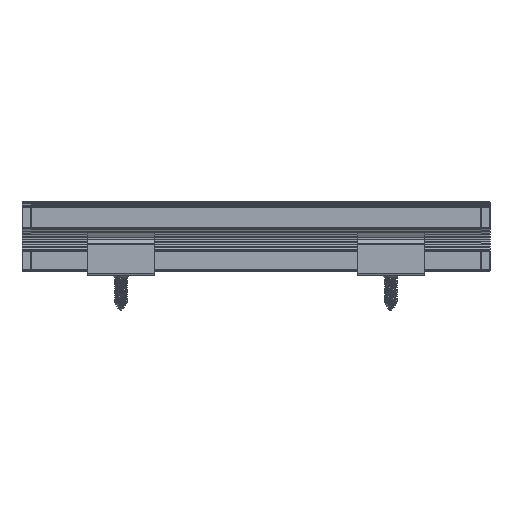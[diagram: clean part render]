
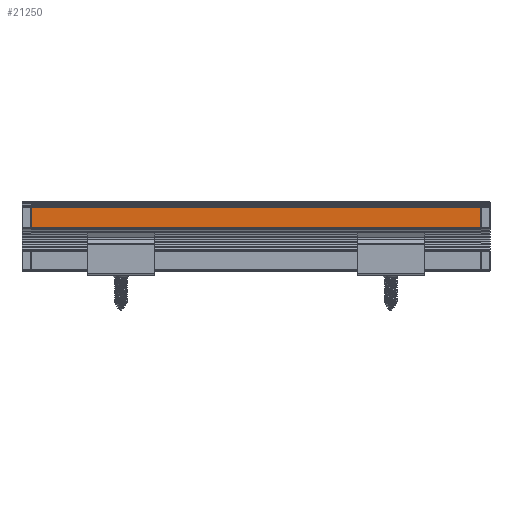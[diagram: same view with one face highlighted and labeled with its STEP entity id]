
A CAD part, left-side view. The second image highlights one B-rep face of the part: STEP entity #21250.
In plain terms, the highlighted planar face has unit normal (-1, 0, 0).
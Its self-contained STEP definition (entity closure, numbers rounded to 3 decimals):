
#1273=FACE_OUTER_BOUND('',#2492,.T.);
#2492=EDGE_LOOP('',(#14876,#14877,#14878,#14879));
#3718=LINE('',#30389,#6317);
#4122=LINE('',#31196,#6721);
#4123=LINE('',#31199,#6722);
#4124=LINE('',#31200,#6723);
#6317=VECTOR('',#24265,10.);
#6721=VECTOR('',#25051,10.);
#6722=VECTOR('',#25054,10.);
#6723=VECTOR('',#25055,10.);
#8916=VERTEX_POINT('',#30386);
#8917=VERTEX_POINT('',#30388);
#9129=VERTEX_POINT('',#31194);
#9130=VERTEX_POINT('',#31198);
#10940=EDGE_CURVE('',#8916,#8917,#3718,.T.);
#11344=EDGE_CURVE('',#8916,#9129,#4122,.T.);
#11345=EDGE_CURVE('',#9130,#9129,#4123,.T.);
#11346=EDGE_CURVE('',#8917,#9130,#4124,.T.);
#14876=ORIENTED_EDGE('',*,*,#11344,.T.);
#14877=ORIENTED_EDGE('',*,*,#11345,.F.);
#14878=ORIENTED_EDGE('',*,*,#11346,.F.);
#14879=ORIENTED_EDGE('',*,*,#10940,.F.);
#20390=PLANE('',#22594);
#21250=ADVANCED_FACE('',(#1273),#20390,.T.);
#22594=AXIS2_PLACEMENT_3D('',#31197,#25052,#25053);
#24265=DIRECTION('',(0.,1.,0.));
#25051=DIRECTION('',(0.,0.,1.));
#25052=DIRECTION('center_axis',(-1.,0.,0.));
#25053=DIRECTION('ref_axis',(0.,-1.,0.));
#25054=DIRECTION('',(0.,-1.,0.));
#25055=DIRECTION('',(0.,0.,1.));
#30386=CARTESIAN_POINT('',(-8.55,9.635,-50.));
#30388=CARTESIAN_POINT('',(-8.55,14.21,-50.));
#30389=CARTESIAN_POINT('',(-8.55,14.21,-50.));
#31194=CARTESIAN_POINT('',(-8.55,9.635,50.));
#31196=CARTESIAN_POINT('',(-8.55,9.635,0.));
#31197=CARTESIAN_POINT('Origin',(-8.55,14.21,0.));
#31198=CARTESIAN_POINT('',(-8.55,14.21,50.));
#31199=CARTESIAN_POINT('',(-8.55,14.21,50.));
#31200=CARTESIAN_POINT('',(-8.55,14.21,0.));
